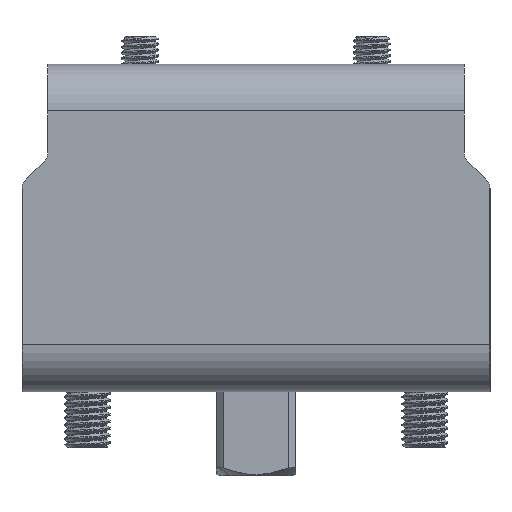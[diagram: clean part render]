
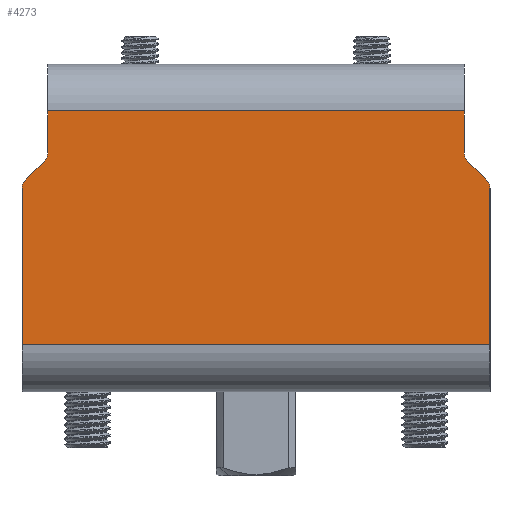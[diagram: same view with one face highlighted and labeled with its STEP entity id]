
A CAD part, left-side view. The second image highlights one B-rep face of the part: STEP entity #4273.
In plain terms, the highlighted planar face has unit normal (-1, 0, 0).
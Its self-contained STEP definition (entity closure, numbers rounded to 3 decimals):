
#58=DIRECTION('',(0.,0.,1.));
#59=VECTOR('',#58,33.464);
#60=CARTESIAN_POINT('',(0.,0.,-60.));
#61=LINE('',#60,#59);
#750=DIRECTION('',(0.,0.,1.));
#751=VECTOR('',#750,33.464);
#752=CARTESIAN_POINT('',(0.,100.,-60.));
#753=LINE('',#752,#751);
#1018=DIRECTION('',(0.,1.,0.));
#1019=VECTOR('',#1018,100.);
#1020=CARTESIAN_POINT('',(0.,0.,-60.));
#1021=LINE('',#1020,#1019);
#1036=CARTESIAN_POINT('',(0.,97.5,-26.536));
#1037=DIRECTION('',(-1.,0.,0.));
#1038=DIRECTION('',(0.,0.707,0.707));
#1039=AXIS2_PLACEMENT_3D('',#1036,#1037,#1038);
#1041=DIRECTION('',(0.,-0.707,0.707));
#1042=VECTOR('',#1041,5.707);
#1043=CARTESIAN_POINT('',(0.,99.268,-24.768));
#1044=LINE('',#1043,#1042);
#1045=DIRECTION('',(0.,0.,-1.));
#1046=VECTOR('',#1045,8.964);
#1047=CARTESIAN_POINT('',(0.,94.5,-10.));
#1048=LINE('',#1047,#1046);
#1049=DIRECTION('',(0.,0.,-1.));
#1050=VECTOR('',#1049,8.964);
#1051=CARTESIAN_POINT('',(0.,5.5,-10.));
#1052=LINE('',#1051,#1050);
#1053=DIRECTION('',(0.,-0.707,-0.707));
#1054=VECTOR('',#1053,5.707);
#1055=CARTESIAN_POINT('',(0.,4.768,-20.732));
#1056=LINE('',#1055,#1054);
#1057=CARTESIAN_POINT('',(0.,2.5,-26.536));
#1058=DIRECTION('',(-1.,0.,0.));
#1059=DIRECTION('',(0.,-1.,0.));
#1060=AXIS2_PLACEMENT_3D('',#1057,#1058,#1059);
#1078=CARTESIAN_POINT('',(0.,97.,-18.964));
#1079=DIRECTION('',(1.,0.,0.));
#1080=DIRECTION('',(0.,-1.,0.));
#1081=AXIS2_PLACEMENT_3D('',#1078,#1079,#1080);
#1178=CARTESIAN_POINT('',(0.,3.,-18.964));
#1179=DIRECTION('',(1.,0.,0.));
#1180=DIRECTION('',(0.,0.707,-0.707));
#1181=AXIS2_PLACEMENT_3D('',#1178,#1179,#1180);
#1364=DIRECTION('',(0.,1.,0.));
#1365=VECTOR('',#1364,89.);
#1366=CARTESIAN_POINT('',(0.,5.5,-10.));
#1367=LINE('',#1366,#1365);
#2691=CARTESIAN_POINT('',(0.,0.,-60.));
#2692=CARTESIAN_POINT('',(0.,100.,-60.));
#2693=VERTEX_POINT('',#2691);
#2694=VERTEX_POINT('',#2692);
#2835=CARTESIAN_POINT('',(0.,94.5,-10.));
#2836=VERTEX_POINT('',#2835);
#2837=CARTESIAN_POINT('',(0.,5.5,-10.));
#2838=VERTEX_POINT('',#2837);
#2843=CARTESIAN_POINT('',(0.,94.5,-18.964));
#2845=VERTEX_POINT('',#2843);
#2847=CARTESIAN_POINT('',(0.,95.232,-20.732));
#2849=VERTEX_POINT('',#2847);
#2867=CARTESIAN_POINT('',(0.,4.768,-20.732));
#2869=VERTEX_POINT('',#2867);
#2871=CARTESIAN_POINT('',(0.,5.5,-18.964));
#2873=VERTEX_POINT('',#2871);
#2879=CARTESIAN_POINT('',(0.,99.268,-24.768));
#2880=VERTEX_POINT('',#2879);
#2881=CARTESIAN_POINT('',(0.,100.,-26.536));
#2882=VERTEX_POINT('',#2881);
#2899=CARTESIAN_POINT('',(0.,0.,-26.536));
#2900=CARTESIAN_POINT('',(0.,0.732,
-24.768));
#2901=VERTEX_POINT('',#2899);
#2902=VERTEX_POINT('',#2900);
#4246=CARTESIAN_POINT('',(0.,0.,-70.));
#4247=DIRECTION('',(-1.,0.,0.));
#4248=DIRECTION('',(0.,0.,1.));
#4249=AXIS2_PLACEMENT_3D('',#4246,#4247,#4248);
#4250=PLANE('',#4249);
#4251=ORIENTED_EDGE('',*,*,#3886,.F.);
#4253=ORIENTED_EDGE('',*,*,#4252,.T.);
#4255=ORIENTED_EDGE('',*,*,#4254,.F.);
#4257=ORIENTED_EDGE('',*,*,#4256,.F.);
#4259=ORIENTED_EDGE('',*,*,#4258,.F.);
#4261=ORIENTED_EDGE('',*,*,#4260,.T.);
#4263=ORIENTED_EDGE('',*,*,#4262,.F.);
#4265=ORIENTED_EDGE('',*,*,#4264,.T.);
#4267=ORIENTED_EDGE('',*,*,#4266,.F.);
#4268=ORIENTED_EDGE('',*,*,#3410,.F.);
#4269=ORIENTED_EDGE('',*,*,#4238,.T.);
#4270=ORIENTED_EDGE('',*,*,#3839,.T.);
#4271=EDGE_LOOP('',(#4251,#4253,#4255,#4257,#4259,#4261,#4263,#4265,#4267,#4268,
#4269,#4270));
#4272=FACE_OUTER_BOUND('',#4271,.F.);
#4273=ADVANCED_FACE('',(#4272),#4250,.T.);
#1040=CIRCLE('',#1039,2.5);
#1061=CIRCLE('',#1060,2.5);
#1082=CIRCLE('',#1081,2.5);
#1182=CIRCLE('',#1181,2.5);
#3410=EDGE_CURVE('',#2693,#2901,#61,.T.);
#3839=EDGE_CURVE('',#2694,#2882,#753,.T.);
#3886=EDGE_CURVE('',#2880,#2882,#1040,.T.);
#4238=EDGE_CURVE('',#2693,#2694,#1021,.T.);
#4252=EDGE_CURVE('',#2880,#2849,#1044,.T.);
#4254=EDGE_CURVE('',#2845,#2849,#1082,.T.);
#4256=EDGE_CURVE('',#2836,#2845,#1048,.T.);
#4258=EDGE_CURVE('',#2838,#2836,#1367,.T.);
#4260=EDGE_CURVE('',#2838,#2873,#1052,.T.);
#4262=EDGE_CURVE('',#2869,#2873,#1182,.T.);
#4264=EDGE_CURVE('',#2869,#2902,#1056,.T.);
#4266=EDGE_CURVE('',#2901,#2902,#1061,.T.);
